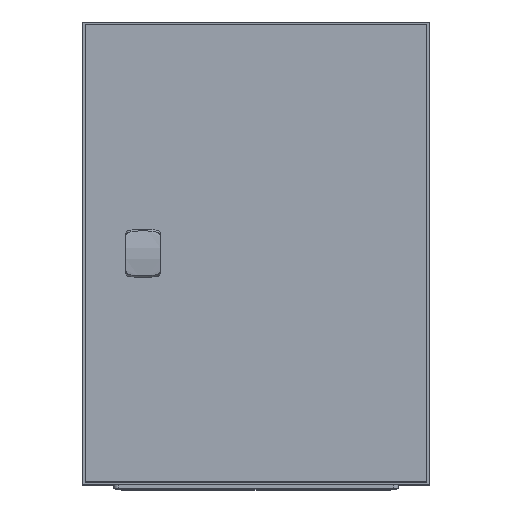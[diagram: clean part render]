
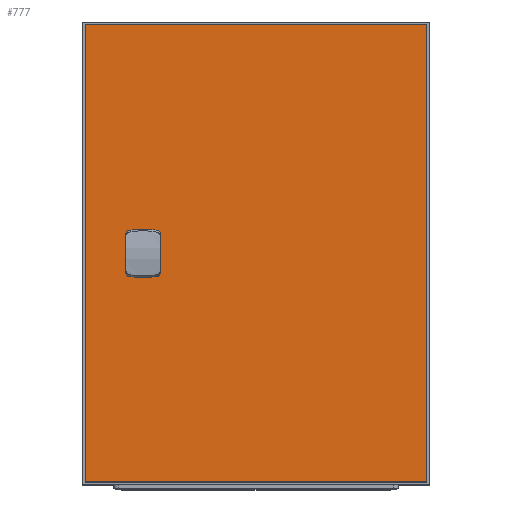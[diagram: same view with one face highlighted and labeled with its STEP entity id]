
A CAD part, top view. The second image highlights one B-rep face of the part: STEP entity #777.
In plain terms, the highlighted planar face has unit normal (0, 0, 1).
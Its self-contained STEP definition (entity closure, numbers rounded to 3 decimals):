
#777 = ADVANCED_FACE( '', ( #1705, #1706 ), #1707, .F. );
#1705 = FACE_BOUND( '', #2901, .T. );
#1706 = FACE_OUTER_BOUND( '', #2902, .T. );
#1707 = PLANE( '', #2903 );
#2901 = EDGE_LOOP( '', ( #4681, #4682, #4683, #4684, #4685, #4686, #4687, #4688, #4689, #4690, #4691, #4692, #4693, #4694, #4695, #4696 ) );
#2902 = EDGE_LOOP( '', ( #4697, #4698, #4699, #4700 ) );
#2903 = AXIS2_PLACEMENT_3D( '', #4701, #4702, #4703 );
#4681 = ORIENTED_EDGE( '', *, *, #6921, .F. );
#4682 = ORIENTED_EDGE( '', *, *, #7083, .F. );
#4683 = ORIENTED_EDGE( '', *, *, #6751, .F. );
#4684 = ORIENTED_EDGE( '', *, *, #7084, .F. );
#4685 = ORIENTED_EDGE( '', *, *, #7085, .F. );
#4686 = ORIENTED_EDGE( '', *, *, #7086, .F. );
#4687 = ORIENTED_EDGE( '', *, *, #6572, .F. );
#4688 = ORIENTED_EDGE( '', *, *, #6983, .F. );
#4689 = ORIENTED_EDGE( '', *, *, #7087, .F. );
#4690 = ORIENTED_EDGE( '', *, *, #7088, .F. );
#4691 = ORIENTED_EDGE( '', *, *, #6804, .F. );
#4692 = ORIENTED_EDGE( '', *, *, #6784, .F. );
#4693 = ORIENTED_EDGE( '', *, *, #7089, .F. );
#4694 = ORIENTED_EDGE( '', *, *, #7090, .F. );
#4695 = ORIENTED_EDGE( '', *, *, #6674, .F. );
#4696 = ORIENTED_EDGE( '', *, *, #6789, .F. );
#4697 = ORIENTED_EDGE( '', *, *, #7091, .T. );
#4698 = ORIENTED_EDGE( '', *, *, #7092, .F. );
#4699 = ORIENTED_EDGE( '', *, *, #6860, .F. );
#4700 = ORIENTED_EDGE( '', *, *, #7093, .T. );
#4701 = CARTESIAN_POINT( '', ( -147.5, 197.5, 0. ) );
#4702 = DIRECTION( '', ( 0., 0., -1. ) );
#4703 = DIRECTION( '', ( -1., 0., 0. ) );
#6572 = EDGE_CURVE( '', #7698, #7699, #7700, .T. );
#6674 = EDGE_CURVE( '', #7877, #7878, #7879, .T. );
#6751 = EDGE_CURVE( '', #8004, #8005, #8006, .T. );
#6784 = EDGE_CURVE( '', #8059, #8060, #8061, .T. );
#6789 = EDGE_CURVE( '', #8068, #7877, #8069, .T. );
#6804 = EDGE_CURVE( '', #8060, #8093, #8094, .T. );
#6860 = EDGE_CURVE( '', #8188, #8190, #8191, .T. );
#6921 = EDGE_CURVE( '', #8283, #8068, #8284, .T. );
#6983 = EDGE_CURVE( '', #8382, #7698, #8383, .T. );
#7083 = EDGE_CURVE( '', #8005, #8283, #8533, .T. );
#7084 = EDGE_CURVE( '', #8534, #8004, #8535, .T. );
#7085 = EDGE_CURVE( '', #8536, #8534, #8537, .T. );
#7086 = EDGE_CURVE( '', #7699, #8536, #8538, .T. );
#7087 = EDGE_CURVE( '', #8539, #8382, #8540, .T. );
#7088 = EDGE_CURVE( '', #8093, #8539, #8541, .T. );
#7089 = EDGE_CURVE( '', #8542, #8059, #8543, .T. );
#7090 = EDGE_CURVE( '', #7878, #8542, #8544, .T. );
#7091 = EDGE_CURVE( '', #8545, #8546, #8547, .T. );
#7092 = EDGE_CURVE( '', #8190, #8546, #8548, .T. );
#7093 = EDGE_CURVE( '', #8188, #8545, #8549, .T. );
#7698 = VERTEX_POINT( '', #9334 );
#7699 = VERTEX_POINT( '', #9335 );
#7700 = LINE( '', #9336, #9337 );
#7877 = VERTEX_POINT( '', #9633 );
#7878 = VERTEX_POINT( '', #9634 );
#7879 = LINE( '', #9635, #9636 );
#8004 = VERTEX_POINT( '', #9802 );
#8005 = VERTEX_POINT( '', #9803 );
#8006 = CIRCLE( '', #9804, 11.3 );
#8059 = VERTEX_POINT( '', #9874 );
#8060 = VERTEX_POINT( '', #9875 );
#8061 = LINE( '', #9876, #9877 );
#8068 = VERTEX_POINT( '', #9887 );
#8069 = LINE( '', #9888, #9889 );
#8093 = VERTEX_POINT( '', #9919 );
#8094 = CIRCLE( '', #9920, 11.3 );
#8188 = VERTEX_POINT( '', #10041 );
#8190 = VERTEX_POINT( '', #10044 );
#8191 = LINE( '', #10045, #10046 );
#8283 = VERTEX_POINT( '', #10181 );
#8284 = CIRCLE( '', #10182, 11.3 );
#8382 = VERTEX_POINT( '', #10312 );
#8383 = LINE( '', #10313, #10314 );
#8533 = LINE( '', #10520, #10521 );
#8534 = VERTEX_POINT( '', #10522 );
#8535 = LINE( '', #10523, #10524 );
#8536 = VERTEX_POINT( '', #10525 );
#8537 = LINE( '', #10526, #10527 );
#8538 = CIRCLE( '', #10528, 1.25 );
#8539 = VERTEX_POINT( '', #10529 );
#8540 = CIRCLE( '', #10530, 11.3 );
#8541 = LINE( '', #10531, #10532 );
#8542 = VERTEX_POINT( '', #10533 );
#8543 = LINE( '', #10534, #10535 );
#8544 = CIRCLE( '', #10536, 1.25 );
#8545 = VERTEX_POINT( '', #10537 );
#8546 = VERTEX_POINT( '', #10538 );
#8547 = LINE( '', #10539, #10540 );
#8548 = LINE( '', #10541, #10542 );
#8549 = LINE( '', #10543, #10544 );
#9334 = CARTESIAN_POINT( '', ( -96.25, 10.15, 0. ) );
#9335 = CARTESIAN_POINT( '', ( -96.25, 10.75, 0. ) );
#9336 = CARTESIAN_POINT( '', ( -96.25, 10.15, 0. ) );
#9337 = VECTOR( '', #11525, 1000. );
#9633 = CARTESIAN_POINT( '', ( -98.75, -10.15, 0. ) );
#9634 = CARTESIAN_POINT( '', ( -98.75, -10.75, 0. ) );
#9635 = CARTESIAN_POINT( '', ( -98.75, -10.15, 0. ) );
#9636 = VECTOR( '', #11633, 1000. );
#9802 = CARTESIAN_POINT( '', ( -102.467, 10.15, 0. ) );
#9803 = CARTESIAN_POINT( '', ( -107.65, 4.967, 0. ) );
#9804 = AXIS2_PLACEMENT_3D( '', #11728, #11729, #11730 );
#9874 = CARTESIAN_POINT( '', ( -96.25, -10.15, 0. ) );
#9875 = CARTESIAN_POINT( '', ( -92.533, -10.15, 0. ) );
#9876 = CARTESIAN_POINT( '', ( -96.25, -10.15, 0. ) );
#9877 = VECTOR( '', #11772, 1000. );
#9887 = CARTESIAN_POINT( '', ( -102.467, -10.15, 0. ) );
#9888 = CARTESIAN_POINT( '', ( -102.467, -10.15, 0. ) );
#9889 = VECTOR( '', #11776, 1000. );
#9919 = CARTESIAN_POINT( '', ( -87.35, -4.967, 0. ) );
#9920 = AXIS2_PLACEMENT_3D( '', #11795, #11796, #11797 );
#10041 = CARTESIAN_POINT( '', ( -147.5, 197.5, 0. ) );
#10044 = CARTESIAN_POINT( '', ( 147.5, 197.5, 0. ) );
#10045 = CARTESIAN_POINT( '', ( -147.5, 197.5, 0. ) );
#10046 = VECTOR( '', #11871, 1000. );
#10181 = CARTESIAN_POINT( '', ( -107.65, -4.967, 0. ) );
#10182 = AXIS2_PLACEMENT_3D( '', #11932, #11933, #11934 );
#10312 = CARTESIAN_POINT( '', ( -92.533, 10.15, 0. ) );
#10313 = CARTESIAN_POINT( '', ( -92.533, 10.15, 0. ) );
#10314 = VECTOR( '', #12009, 1000. );
#10520 = CARTESIAN_POINT( '', ( -107.65, 4.967, 0. ) );
#10521 = VECTOR( '', #12117, 1000. );
#10522 = CARTESIAN_POINT( '', ( -98.75, 10.15, 0. ) );
#10523 = CARTESIAN_POINT( '', ( -98.75, 10.15, 0. ) );
#10524 = VECTOR( '', #12118, 1000. );
#10525 = CARTESIAN_POINT( '', ( -98.75, 10.75, 0. ) );
#10526 = CARTESIAN_POINT( '', ( -98.75, 10.75, 0. ) );
#10527 = VECTOR( '', #12119, 1000. );
#10528 = AXIS2_PLACEMENT_3D( '', #12120, #12121, #12122 );
#10529 = CARTESIAN_POINT( '', ( -87.35, 4.967, 0. ) );
#10530 = AXIS2_PLACEMENT_3D( '', #12123, #12124, #12125 );
#10531 = CARTESIAN_POINT( '', ( -87.35, -4.967, 0. ) );
#10532 = VECTOR( '', #12126, 1000. );
#10533 = CARTESIAN_POINT( '', ( -96.25, -10.75, 0. ) );
#10534 = CARTESIAN_POINT( '', ( -96.25, -10.75, 0. ) );
#10535 = VECTOR( '', #12127, 1000. );
#10536 = AXIS2_PLACEMENT_3D( '', #12128, #12129, #12130 );
#10537 = CARTESIAN_POINT( '', ( -147.5, -197.5, 0. ) );
#10538 = CARTESIAN_POINT( '', ( 147.5, -197.5, 0. ) );
#10539 = CARTESIAN_POINT( '', ( -147.5, -197.5, 0. ) );
#10540 = VECTOR( '', #12131, 1000. );
#10541 = CARTESIAN_POINT( '', ( 147.5, 197.5, 0. ) );
#10542 = VECTOR( '', #12132, 1000. );
#10543 = CARTESIAN_POINT( '', ( -147.5, 197.5, 0. ) );
#10544 = VECTOR( '', #12133, 1000. );
#11525 = DIRECTION( '', ( 0., 1., 0. ) );
#11633 = DIRECTION( '', ( 0., -1., 0. ) );
#11728 = CARTESIAN_POINT( '', ( -97.5, 0., 0. ) );
#11729 = DIRECTION( '', ( 0., 0., 1. ) );
#11730 = DIRECTION( '', ( 1., 0., 0. ) );
#11772 = DIRECTION( '', ( 1., 0., 0. ) );
#11776 = DIRECTION( '', ( 1., 0., 0. ) );
#11795 = CARTESIAN_POINT( '', ( -97.5, 0., 0. ) );
#11796 = DIRECTION( '', ( 0., 0., 1. ) );
#11797 = DIRECTION( '', ( 1., 0., 0. ) );
#11871 = DIRECTION( '', ( 1., 0., 0. ) );
#11932 = CARTESIAN_POINT( '', ( -97.5, 0., 0. ) );
#11933 = DIRECTION( '', ( 0., 0., 1. ) );
#11934 = DIRECTION( '', ( 1., 0., 0. ) );
#12009 = DIRECTION( '', ( -1., 0., 0. ) );
#12117 = DIRECTION( '', ( 0., -1., 0. ) );
#12118 = DIRECTION( '', ( -1., 0., 0. ) );
#12119 = DIRECTION( '', ( 0., -1., 0. ) );
#12120 = CARTESIAN_POINT( '', ( -97.5, 10.75, 0. ) );
#12121 = DIRECTION( '', ( 0., 0., 1. ) );
#12122 = DIRECTION( '', ( 1., 0., 0. ) );
#12123 = CARTESIAN_POINT( '', ( -97.5, 0., 0. ) );
#12124 = DIRECTION( '', ( 0., 0., 1. ) );
#12125 = DIRECTION( '', ( 1., 0., 0. ) );
#12126 = DIRECTION( '', ( 0., 1., 0. ) );
#12127 = DIRECTION( '', ( 0., 1., 0. ) );
#12128 = CARTESIAN_POINT( '', ( -97.5, -10.75, 0. ) );
#12129 = DIRECTION( '', ( 0., 0., 1. ) );
#12130 = DIRECTION( '', ( 1., 0., 0. ) );
#12131 = DIRECTION( '', ( 1., 0., 0. ) );
#12132 = DIRECTION( '', ( 0., -1., 0. ) );
#12133 = DIRECTION( '', ( 0., -1., 0. ) );
